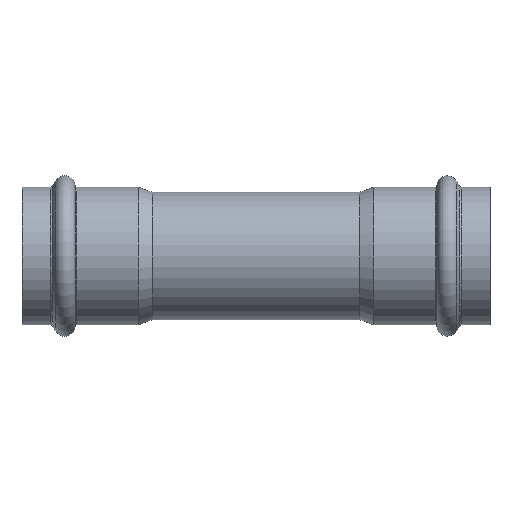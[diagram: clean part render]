
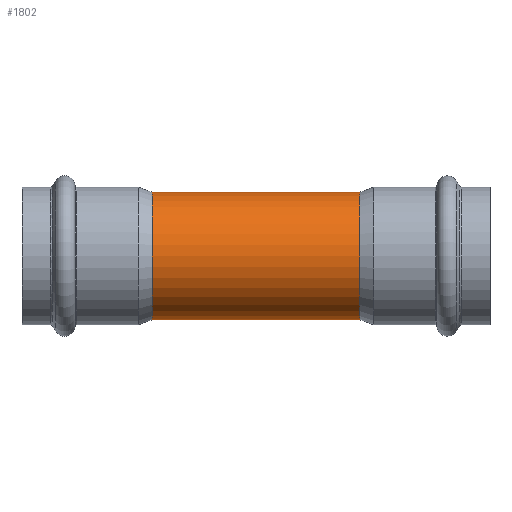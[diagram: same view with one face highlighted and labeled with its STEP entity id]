
A CAD part, front view. The second image highlights one B-rep face of the part: STEP entity #1802.
In plain terms, the highlighted cylindrical face has radius 21 mm (diameter 42 mm), a full revolution.
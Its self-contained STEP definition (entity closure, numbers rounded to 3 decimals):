
#1621=CARTESIAN_POINT('',(0.,18.705,9.545));
#1622=VERTEX_POINT('',#1621);
#1691=CARTESIAN_POINT('',(0.,18.705,9.545));
#1692=CARTESIAN_POINT('',(0.567,18.705,9.546));
#1693=CARTESIAN_POINT('',(1.323,18.737,9.484));
#1694=CARTESIAN_POINT('',(2.431,18.843,9.271));
#1695=CARTESIAN_POINT('',(3.332,18.965,9.021));
#1696=CARTESIAN_POINT('',(4.373,19.158,8.607));
#1697=CARTESIAN_POINT('',(5.272,19.365,8.129));
#1698=CARTESIAN_POINT('',(5.879,19.527,7.728));
#1699=CARTESIAN_POINT('',(6.751,19.776,7.082));
#1700=CARTESIAN_POINT('',(7.522,20.03,6.347));
#1701=CARTESIAN_POINT('',(8.403,20.35,5.212));
#1702=CARTESIAN_POINT('',(8.808,20.507,4.548));
#1703=CARTESIAN_POINT('',(9.129,20.635,3.901));
#1704=CARTESIAN_POINT('',(9.625,20.837,2.8));
#1705=CARTESIAN_POINT('',(10.01,21.005,1.205));
#1706=CARTESIAN_POINT('',(10.009,21.004,-0.728));
#1707=CARTESIAN_POINT('',(9.8,20.913,-2.037));
#1708=CARTESIAN_POINT('',(9.518,20.794,-2.96));
#1709=CARTESIAN_POINT('',(9.166,20.65,-3.855));
#1710=CARTESIAN_POINT('',(8.678,20.454,-4.813));
#1711=CARTESIAN_POINT('',(8.044,20.217,-5.697));
#1712=CARTESIAN_POINT('',(7.451,20.01,-6.377));
#1713=CARTESIAN_POINT('',(7.11,19.897,-6.72));
#1714=CARTESIAN_POINT('',(6.487,19.7,-7.282));
#1715=CARTESIAN_POINT('',(5.668,19.461,-7.906));
#1716=CARTESIAN_POINT('',(4.377,19.153,-8.621));
#1717=CARTESIAN_POINT('',(2.989,18.905,-9.147));
#1718=CARTESIAN_POINT('',(1.759,18.77,-9.418));
#1719=CARTESIAN_POINT('',(0.259,18.687,-9.582));
#1720=CARTESIAN_POINT('',(-1.266,18.715,-9.527));
#1721=CARTESIAN_POINT('',(-2.98,18.904,-9.15));
#1722=CARTESIAN_POINT('',(-4.386,19.154,-8.618));
#1723=CARTESIAN_POINT('',(-5.666,19.461,-7.907));
#1724=CARTESIAN_POINT('',(-6.826,19.799,-7.024));
#1725=CARTESIAN_POINT('',(-7.67,20.084,-6.157));
#1726=CARTESIAN_POINT('',(-8.254,20.296,-5.403));
#1727=CARTESIAN_POINT('',(-8.874,20.531,-4.47));
#1728=CARTESIAN_POINT('',(-9.397,20.743,-3.373));
#1729=CARTESIAN_POINT('',(-9.944,20.975,-1.531));
#1730=CARTESIAN_POINT('',(-10.101,21.045,0.433));
#1731=CARTESIAN_POINT('',(-9.736,20.885,2.337));
#1732=CARTESIAN_POINT('',(-9.249,20.683,3.692));
#1733=CARTESIAN_POINT('',(-8.677,20.453,4.816));
#1734=CARTESIAN_POINT('',(-7.899,20.163,5.897));
#1735=CARTESIAN_POINT('',(-7.079,19.884,6.769));
#1736=CARTESIAN_POINT('',(-6.254,19.629,7.474));
#1737=CARTESIAN_POINT('',(-5.344,19.382,8.091));
#1738=CARTESIAN_POINT('',(-4.534,19.195,8.521));
#1739=CARTESIAN_POINT('',(-3.516,18.995,8.959));
#1740=CARTESIAN_POINT('',(-2.077,18.78,9.402));
#1741=CARTESIAN_POINT('',(-0.756,18.705,9.545));
#1742=CARTESIAN_POINT('',(0.,18.705,9.545));
#1743=CARTESIAN_POINT('',(0.,18.705,9.545));
#1744=CARTESIAN_POINT('',(0.,18.705,9.545));
#1745=CARTESIAN_POINT('',(0.,18.705,9.545));
#1746=B_SPLINE_CURVE_WITH_KNOTS('',3,(#1691,#1692,#1693,#1694,#1695,#1696,#1697,#1698,#1699,#1700,#1701,#1702,#1703,#1704,#1705,#1706,#1707,#1708,#1709,#1710,#1711,#1712,#1713,#1714,#1715,#1716,#1717,#1718,#1719,#1720,#1721,#1722,#1723,#1724,#1725,#1726,#1727,#1728,#1729,#1730,#1731,#1732,#1733,#1734,#1735,#1736,#1737,#1738,#1739,#1740,#1741,#1742,#1743,#1744,#1745),.UNSPECIFIED.,.T.,.U.,(4,1,1,1,1,1,1,1,1,1,1,1,1,1,1,1,1,1,1,1,1,1,1,1,1,1,1,1,1,1,1,1,1,1,1,1,1,1,1,1,1,1,1,1,1,1,1,1,1,3,4),(-5.503,-5.355,-5.306,-5.208,-5.11,-5.011,-4.938,-4.913,-4.717,-4.651,-4.52,-4.504,-4.455,-4.193,-4.061,-3.93,-3.832,-3.799,-3.668,-3.537,-3.505,-3.423,-3.406,-3.275,-3.144,-3.013,-2.882,-2.817,-2.62,-2.489,-2.358,-2.227,-2.096,-1.965,-1.9,-1.834,-1.66,-1.572,-1.31,-1.13,-1.048,-0.917,-0.786,-0.688,-0.59,-0.491,-0.393,-0.344,-0.197,0.0,0.),.UNSPECIFIED.);
#1747=EDGE_CURVE('',#1622,#1622,#1746,.T.);
#1772=CARTESIAN_POINT('',(0.0,0.0,0.0));
#1773=DIRECTION('',(1.0,0.,0.0));
#1774=DIRECTION('',(0.0,1.0,0.0));
#1775=AXIS2_PLACEMENT_3D('',#1772,#1773,#1774);
#1776=CYLINDRICAL_SURFACE('',#1775,21.0);
#1777=CARTESIAN_POINT('',(-34.202,21.0,0.0));
#1778=VERTEX_POINT('',#1777);
#1779=CARTESIAN_POINT('',(-34.202,0.,0.0));
#1780=DIRECTION('',(1.0,0.0,0.0));
#1781=DIRECTION('',(0.0,1.0,0.0));
#1782=AXIS2_PLACEMENT_3D('',#1779,#1780,#1781);
#1783=CIRCLE('',#1782,21.);
#1784=EDGE_CURVE('',#1778,#1778,#1783,.T.);
#1785=ORIENTED_EDGE('',*,*,#1784,.T.);
#1786=EDGE_LOOP('',(#1785));
#1787=FACE_OUTER_BOUND('',#1786,.T.);
#1788=CARTESIAN_POINT('',(34.202,21.0,0.0));
#1789=VERTEX_POINT('',#1788);
#1790=CARTESIAN_POINT('',(34.202,0.,0.0));
#1791=DIRECTION('',(1.0,0.0,0.0));
#1792=DIRECTION('',(0.0,1.0,0.0));
#1793=AXIS2_PLACEMENT_3D('',#1790,#1791,#1792);
#1794=CIRCLE('',#1793,21.);
#1795=EDGE_CURVE('',#1789,#1789,#1794,.T.);
#1796=ORIENTED_EDGE('',*,*,#1795,.F.);
#1797=EDGE_LOOP('',(#1796));
#1798=FACE_BOUND('',#1797,.T.);
#1799=ORIENTED_EDGE('',*,*,#1747,.F.);
#1800=EDGE_LOOP('',(#1799));
#1801=FACE_BOUND('',#1800,.T.);
#1802=ADVANCED_FACE('',(#1787,#1798,#1801),#1776,.T.);
